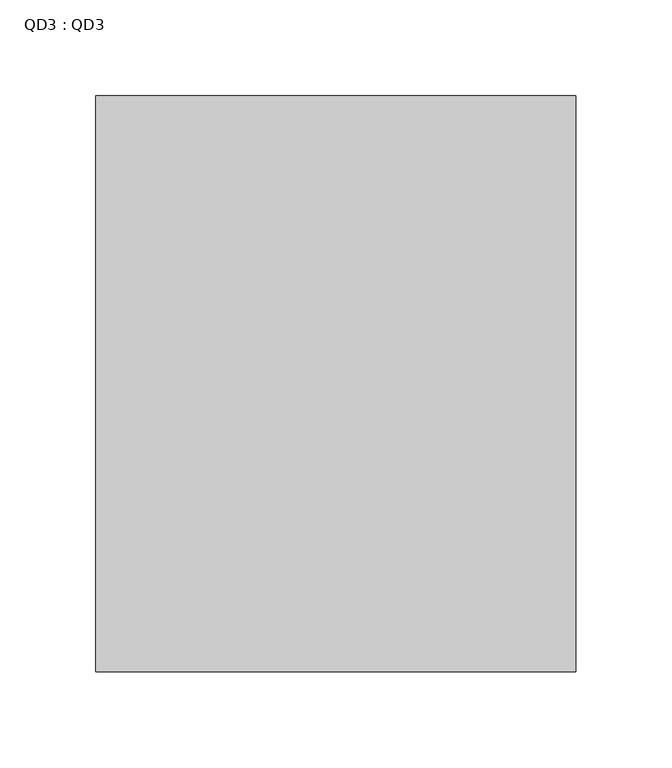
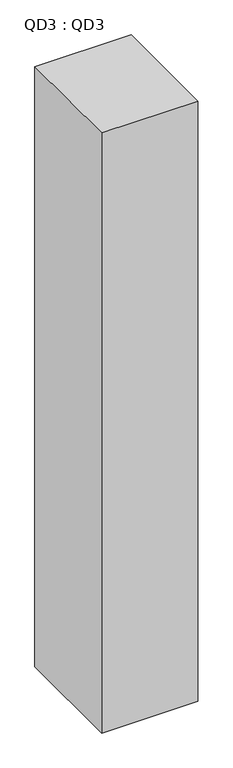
"""IFC4 building model written with IfcOpenShell, lengths in millimetres: proxy geometry, QD3 : QD3."""

from ifc_helpers import new_model, si_unit, frame, origin, place, context, project, spatial, polyline, outline, extrude, source, transform, mapped, element, save


def qd3_qd3_acef897f(model_context):
    return source(origin(), model_context, "Body", "SweptSolid", [
        extrude(outline(polyline([(6450.0, 26768.1), (6700.0, 26768.1), (6700.0, 26468.1), (6450.0, 26468.1), (6450.0, 26768.1)])), frame((0.0, 0.0, -300.0), z_axis=(0.0, 0.0, 1.0), x_axis=(1.0, 0.0, 0.0)), (0.0, 0.0, 1.0), 1650.0),
    ])


if __name__ == "__main__":
    model = new_model("IFC4")
    model_context = context("Model", 3, world=origin())
    ifc_project = project(units=[si_unit("LENGTHUNIT", "METRE", prefix="MILLI")], contexts=[model_context])
    site = spatial("IfcSite", under=ifc_project)
    building = spatial("IfcBuilding", under=site)
    placement = place(None, origin())
    qd3_qd3_shape = qd3_qd3_acef897f(model_context)
    element("IfcBuildingElementProxy", 1, Name="QD3 : QD3", ObjectType="QD3 : QD3", at=placement, inside=building, context=model_context, shape_type="MappedRepresentation", body=[
        mapped(qd3_qd3_shape, transform((0.0, 0.0, 0.0), x_axis=(1.0, 0.0, 0.0), y_axis=(0.0, 1.0, 0.0), z_axis=(0.0, 0.0, 1.0))),
    ])
    save(model, "model.ifc")
